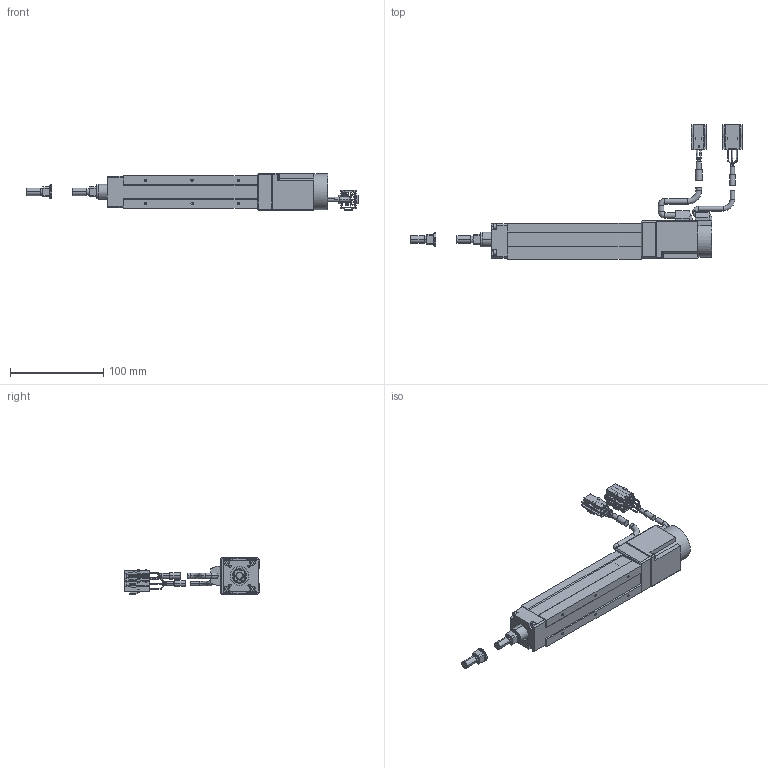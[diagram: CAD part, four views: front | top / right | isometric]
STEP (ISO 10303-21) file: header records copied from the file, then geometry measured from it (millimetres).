
FILE_DESCRIPTION((''),'2;1');
FILE_NAME('BET3D-ST-C_N-05_IGS_PRT','2017-06-18T',(' '),(''),'PRO/ENGINEER BY PARAMETRIC TECHNOLOGY CORPORATION, 2015030','PRO/ENGINEER BY PARAMETRIC TECHNOLOGY CORPORATION, 2015030','');
FILE_SCHEMA(('CONFIG_CONTROL_DESIGN'));
Length unit declared in the file: millimetre
Products named in the file (1): BET3D-ST-C_N-05_IGS_PRT
Bounding box: 356.9 x 144.2 x 40.28 mm (x, y, z)
Volume: 247030.1 mm3; surface area: 81852.3 mm2
Topology: 6 solids, 32 shells, 864 faces, 2182 edges, 1386 vertices
Faces by surface type: plane 500, cylinder 246, torus 64, cone 50, sphere 4
Entity records: 25832 total; most frequent: CARTESIAN_POINT 4631, DIRECTION 4484, ORIENTED_EDGE 4268, EDGE_CURVE 2150, AXIS2_PLACEMENT_3D 1502, VECTOR 1480, LINE 1480, VERTEX_POINT 1386
